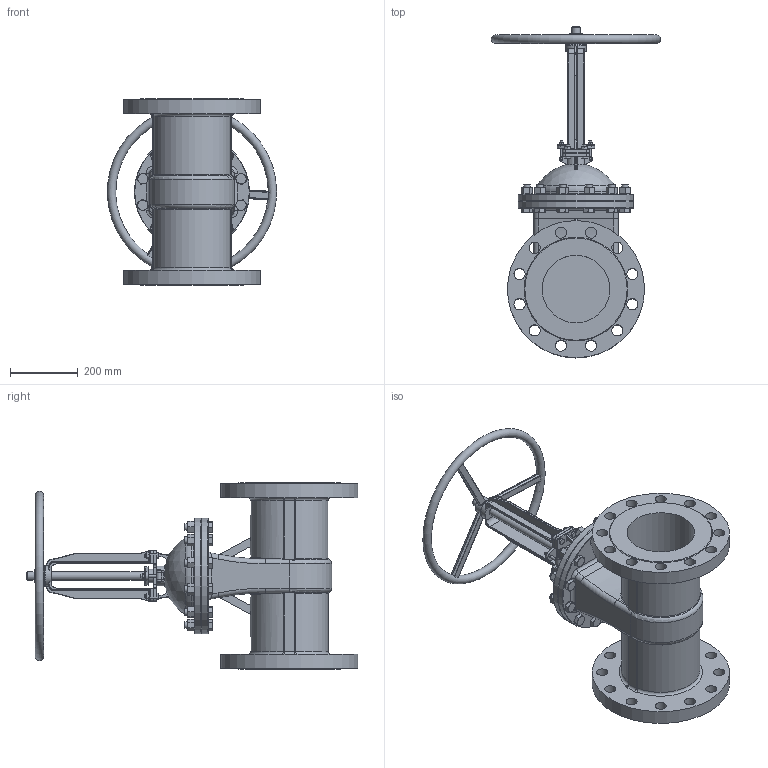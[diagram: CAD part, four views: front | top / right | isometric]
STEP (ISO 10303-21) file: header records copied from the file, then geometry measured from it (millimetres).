
FILE_DESCRIPTION(('STEP AP214'), '1');
FILE_NAME('GVWR3131M-2W-F-S Çàäâèæêà êëèíîâàÿ ñ âûäâèæíûì øòîêîì DN.ru Äó200 Ðó63', '', ('UNSPECIFIED'), ('UNSPECIFIED'), 'C3D Converter', 'C3D Toolkit', '');
FILE_SCHEMA(('AUTOMOTIVE_DESIGN { 1 0 10303 214 3 1 1}'));
Length unit declared in the file: millimetre
Products named in the file (1): GVWR3131M-2W-F-S
Bounding box: 499.68 x 980 x 550 mm (x, y, z)
Volume: 28742624.7 mm3; surface area: 2026718.3 mm2
Topology: 1 solids, 1 shells, 1314 faces, 3145 edges, 1908 vertices
Faces by surface type: plane 564, cylinder 279, cone 277, bspline 103, torus 86, sphere 5
Full cylindrical faces by diameter (mm): 7 x4, 8 x4, 10 x8, 15 x2, 16 x4, 20 x24, 25 x2, 27.9 x12, 30 x9, 33 x24, 40 x3, 50 x1, 60 x1, 200 x2, 240 x2, 340 x2, 405 x2
Entity records: 68435 total; most frequent: CARTESIAN_POINT 35525, ORIENTED_EDGE 5958, DIRECTION 5566, EDGE_CURVE 2979, AXIS2_PLACEMENT_3D 2251, VERTEX_POINT 1903, EDGE_LOOP 1650, FACE_BOUND 1449
